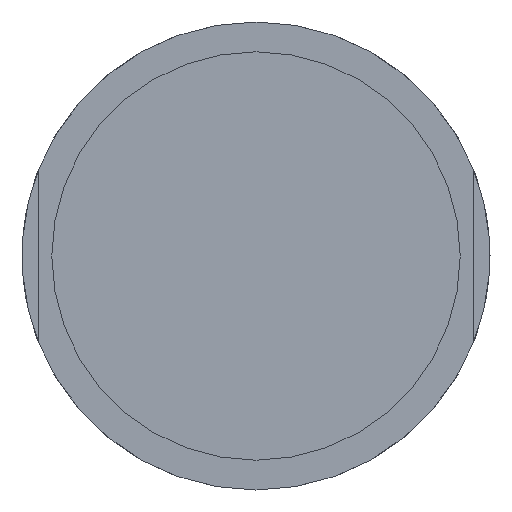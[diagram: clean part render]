
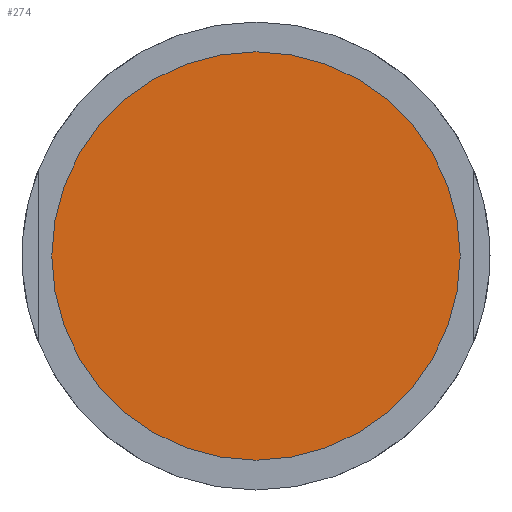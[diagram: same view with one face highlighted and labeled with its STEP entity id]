
A CAD part, left-side view. The second image highlights one B-rep face of the part: STEP entity #274.
In plain terms, the highlighted planar face has unit normal (-1, 0, 0).
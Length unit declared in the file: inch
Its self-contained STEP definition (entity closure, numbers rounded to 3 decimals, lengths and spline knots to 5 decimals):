
#3 = CIRCLE ( 'NONE', #55, 0.7635 ) ;
#35 = FACE_OUTER_BOUND ( 'NONE', #185, .T. ) ;
#55 = AXIS2_PLACEMENT_3D ( 'NONE', #468, #469, #470 ) ;
#81 = AXIS2_PLACEMENT_3D ( 'NONE', #412, #371, #514 ) ;
#109 = EDGE_CURVE ( 'NONE', #440, #226, #313, .T. ) ;
#119 = AXIS2_PLACEMENT_3D ( 'NONE', #254, #234, #238 ) ;
#159 = ORIENTED_EDGE ( 'NONE', *, *, #432, .F. ) ;
#185 = EDGE_LOOP ( 'NONE', ( #220, #159 ) ) ;
#220 = ORIENTED_EDGE ( 'NONE', *, *, #109, .F. ) ;
#226 = VERTEX_POINT ( 'NONE', #373 ) ;
#234 = DIRECTION ( 'NONE',  ( 1., 0., 0. ) ) ;
#238 = DIRECTION ( 'NONE',  ( 0., 0., -1. ) ) ;
#254 = CARTESIAN_POINT ( 'NONE',  ( -2.17, 0., 0. ) ) ;
#274 = ADVANCED_FACE ( 'NONE', ( #35 ), #400, .F. ) ;
#313 = CIRCLE ( 'NONE', #119, 0.7635 ) ;
#371 = DIRECTION ( 'NONE',  ( 1., 0., 0. ) ) ;
#373 = CARTESIAN_POINT ( 'NONE',  ( -2.17, 0., 0.7635 ) ) ;
#400 = PLANE ( 'NONE',  #81 ) ;
#412 = CARTESIAN_POINT ( 'NONE',  ( -2.17, 0.4375, 0. ) ) ;
#432 = EDGE_CURVE ( 'NONE', #226, #440, #3, .T. ) ;
#440 = VERTEX_POINT ( 'NONE', #482 ) ;
#468 = CARTESIAN_POINT ( 'NONE',  ( -2.17, 0., 0. ) ) ;
#469 = DIRECTION ( 'NONE',  ( 1., 0., 0. ) ) ;
#470 = DIRECTION ( 'NONE',  ( 0., 0., -1. ) ) ;
#482 = CARTESIAN_POINT ( 'NONE',  ( -2.17, 0., -0.7635 ) ) ;
#514 = DIRECTION ( 'NONE',  ( 0., 0., -1. ) ) ;
